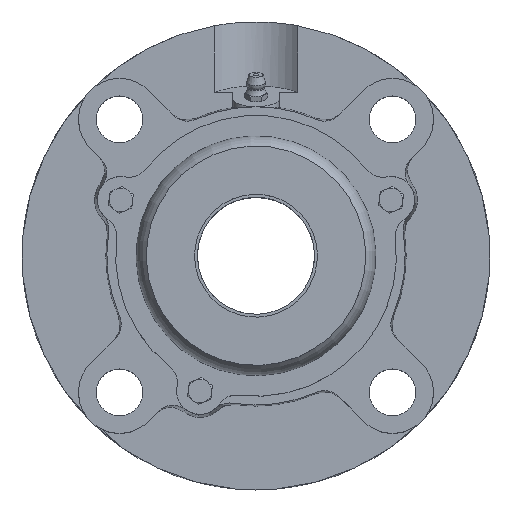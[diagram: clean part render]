
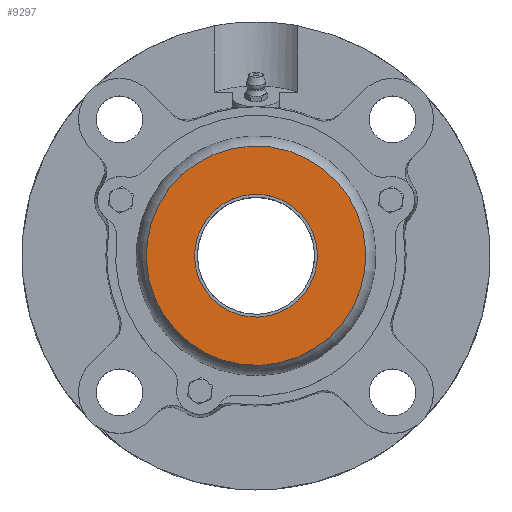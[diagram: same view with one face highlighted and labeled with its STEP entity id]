
A CAD part, top view. The second image highlights one B-rep face of the part: STEP entity #9297.
In plain terms, the highlighted planar face has unit normal (0, 0, 1).
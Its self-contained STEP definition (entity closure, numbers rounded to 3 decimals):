
#8542=CARTESIAN_POINT('',(21.0,0.,30.5));
#8543=VERTEX_POINT('',#8542);
#8544=CARTESIAN_POINT('',(0.0,0.0,30.5));
#8545=DIRECTION('',(0.0,0.0,-1.0));
#8546=DIRECTION('',(-1.0,0.0,0.0));
#8547=AXIS2_PLACEMENT_3D('',#8544,#8545,#8546);
#8548=CIRCLE('',#8547,21.0);
#8549=EDGE_CURVE('',#8543,#8543,#8548,.T.);
#9271=CARTESIAN_POINT('',(0.0,37.5,30.5));
#9272=VERTEX_POINT('',#9271);
#9273=CARTESIAN_POINT('',(0.0,0.,30.5));
#9274=DIRECTION('',(0.0,0.0,1.0));
#9275=DIRECTION('',(0.0,1.0,0.0));
#9276=AXIS2_PLACEMENT_3D('',#9273,#9274,#9275);
#9277=CIRCLE('',#9276,37.5);
#9278=EDGE_CURVE('',#9272,#9272,#9277,.T.);
#9286=CARTESIAN_POINT('',(0.,51.479,30.5));
#9287=DIRECTION('',(0.0,0.0,1.0));
#9288=DIRECTION('',(1.0,0.0,0.0));
#9289=AXIS2_PLACEMENT_3D('',#9286,#9287,#9288);
#9290=PLANE('',#9289);
#9291=ORIENTED_EDGE('',*,*,#9278,.T.);
#9292=EDGE_LOOP('',(#9291));
#9293=FACE_OUTER_BOUND('',#9292,.T.);
#9294=ORIENTED_EDGE('',*,*,#8549,.T.);
#9295=EDGE_LOOP('',(#9294));
#9296=FACE_BOUND('',#9295,.T.);
#9297=ADVANCED_FACE('',(#9293,#9296),#9290,.T.);
